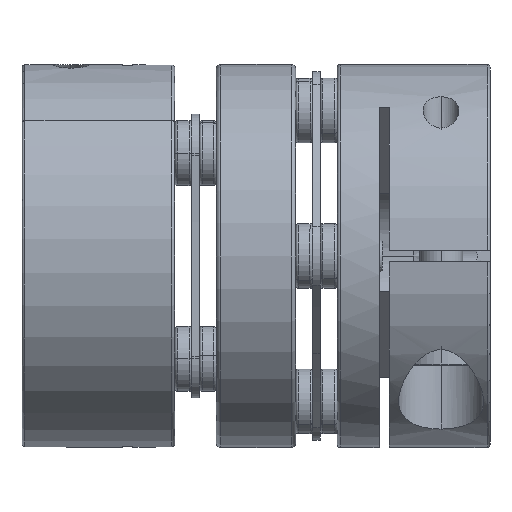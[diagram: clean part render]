
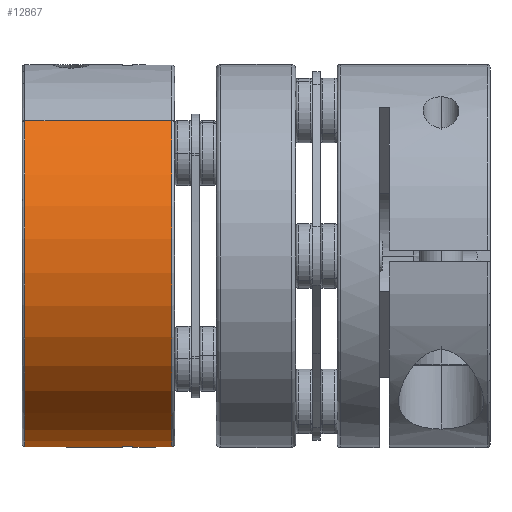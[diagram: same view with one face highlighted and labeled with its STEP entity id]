
A CAD part, left-side view. The second image highlights one B-rep face of the part: STEP entity #12867.
In plain terms, the highlighted cylindrical face has radius 13.3 mm (diameter 26.6 mm), a partial arc.
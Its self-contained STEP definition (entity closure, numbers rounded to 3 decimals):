
#1624 = LINE ( 'NONE', #4772, #1627 ) ;
#1627 = VECTOR ( 'NONE', #4752, 1000. ) ;
#1632 = LINE ( 'NONE', #6009, #1639 ) ;
#1634 = LINE ( 'NONE', #5977, #1636 ) ;
#1636 = VECTOR ( 'NONE', #5887, 1000. ) ;
#1639 = VECTOR ( 'NONE', #5976, 1000. ) ;
#1665 = CIRCLE ( 'NONE', #8670, 13.3 ) ;
#2830 = ORIENTED_EDGE ( 'NONE', *, *, #8005, .T. ) ;
#2884 = ORIENTED_EDGE ( 'NONE', *, *, #7446, .F. ) ;
#2919 = ORIENTED_EDGE ( 'NONE', *, *, #7436, .F. ) ;
#2943 = ORIENTED_EDGE ( 'NONE', *, *, #7442, .T. ) ;
#2947 = ORIENTED_EDGE ( 'NONE', *, *, #13406, .F. ) ;
#2953 = ORIENTED_EDGE ( 'NONE', *, *, #7465, .T. ) ;
#2996 = ORIENTED_EDGE ( 'NONE', *, *, #13412, .T. ) ;
#3016 = ORIENTED_EDGE ( 'NONE', *, *, #8010, .F. ) ;
#4752 = DIRECTION ( 'NONE',  ( 0., 1., 0. ) ) ;
#4772 = CARTESIAN_POINT ( 'NONE',  ( 9.405, 8.4, -9.405 ) ) ;
#5875 = CARTESIAN_POINT ( 'NONE',  ( 0., 18.8, 0. ) ) ;
#5880 = DIRECTION ( 'NONE',  ( 0., -1., 0. ) ) ;
#5881 = DIRECTION ( 'NONE',  ( -0.707, 0., 0.707 ) ) ;
#5887 = DIRECTION ( 'NONE',  ( 0., 1., 0. ) ) ;
#5976 = DIRECTION ( 'NONE',  ( 0., 1., 0. ) ) ;
#5977 = CARTESIAN_POINT ( 'NONE',  ( -9.405, 8.4, 9.405 ) ) ;
#6009 = CARTESIAN_POINT ( 'NONE',  ( 9.405, 8.4, -9.405 ) ) ;
#7436 = EDGE_CURVE ( 'NONE', #20426, #20768, #1624, .T. ) ;
#7442 = EDGE_CURVE ( 'NONE', #20299, #20546, #1634, .T. ) ;
#7446 = EDGE_CURVE ( 'NONE', #20914, #20404, #1632, .T. ) ;
#7465 = EDGE_CURVE ( 'NONE', #20546, #20404, #1665, .T. ) ;
#8005 = EDGE_CURVE ( 'NONE', #20660, #20673, #18298, .T. ) ;
#8010 = EDGE_CURVE ( 'NONE', #20660, #20914, #18315, .T. ) ;
#8670 = AXIS2_PLACEMENT_3D ( 'NONE', #5875, #5880, #5881 ) ;
#9002 = EDGE_LOOP ( 'NONE', ( #2919, #2996, #2943, #2953, #2884, #3016, #2830, #2947 ) ) ;
#10552 = AXIS2_PLACEMENT_3D ( 'NONE', #16962, #16963, #16964 ) ;
#11187 = AXIS2_PLACEMENT_3D ( 'NONE', #16112, #16110, #16108 ) ;
#11615 = AXIS2_PLACEMENT_3D ( 'NONE', #14349, #14350, #14351 ) ;
#11619 = AXIS2_PLACEMENT_3D ( 'NONE', #14364, #14365, #14366 ) ;
#11918 = CARTESIAN_POINT ( 'NONE',  ( -9.405, 8.6, 9.405 ) ) ;
#12025 = CARTESIAN_POINT ( 'NONE',  ( 9.405, 18.8, -9.405 ) ) ;
#12042 = CARTESIAN_POINT ( 'NONE',  ( 9.405, 8.6, -9.405 ) ) ;
#12091 = CARTESIAN_POINT ( 'NONE',  ( -9.405, 18.8, 9.405 ) ) ;
#12205 = CARTESIAN_POINT ( 'NONE',  ( -1.3, 12., -13.236 ) ) ;
#12218 = CARTESIAN_POINT ( 'NONE',  ( -1.3, 11.3, -13.236 ) ) ;
#12313 = CARTESIAN_POINT ( 'NONE',  ( 9.405, 11.3, -9.405 ) ) ;
#12407 = CARTESIAN_POINT ( 'NONE',  ( 9.405, 12., -9.405 ) ) ;
#12867 = ADVANCED_FACE ( 'NONE', ( #21408 ), #21414, .T. ) ;
#13406 = EDGE_CURVE ( 'NONE', #20768, #20673, #20156, .T. ) ;
#13412 = EDGE_CURVE ( 'NONE', #20426, #20299, #20196, .T. ) ;
#14349 = CARTESIAN_POINT ( 'NONE',  ( 0., 11.3, 0. ) ) ;
#14350 = DIRECTION ( 'NONE',  ( 0., 1., 0. ) ) ;
#14351 = DIRECTION ( 'NONE',  ( 0.707, 0., 0.707 ) ) ;
#14364 = CARTESIAN_POINT ( 'NONE',  ( 0., 8.6, 0. ) ) ;
#14365 = DIRECTION ( 'NONE',  ( 0., 1., 0. ) ) ;
#14366 = DIRECTION ( 'NONE',  ( -0.707, 0., 0.707 ) ) ;
#16108 = DIRECTION ( 'NONE',  ( -0.707, 0., 0.707 ) ) ;
#16110 = DIRECTION ( 'NONE',  ( 0., 1., 0. ) ) ;
#16112 = CARTESIAN_POINT ( 'NONE',  ( 0., 8.4, 0. ) ) ;
#16944 = CARTESIAN_POINT ( 'NONE',  ( -1.3, 8.4, -13.236 ) ) ;
#16951 = DIRECTION ( 'NONE',  ( 0., -1., 0. ) ) ;
#16962 = CARTESIAN_POINT ( 'NONE',  ( 0., 12., 0. ) ) ;
#16963 = DIRECTION ( 'NONE',  ( 0., -1., 0. ) ) ;
#16964 = DIRECTION ( 'NONE',  ( -0.707, 0., -0.707 ) ) ;
#18298 = LINE ( 'NONE', #16944, #18309 ) ;
#18309 = VECTOR ( 'NONE', #16951, 1000. ) ;
#18315 = CIRCLE ( 'NONE', #10552, 13.3 ) ;
#20156 = CIRCLE ( 'NONE', #11615, 13.3 ) ;
#20196 = CIRCLE ( 'NONE', #11619, 13.3 ) ;
#20299 = VERTEX_POINT ( 'NONE', #11918 ) ;
#20404 = VERTEX_POINT ( 'NONE', #12025 ) ;
#20426 = VERTEX_POINT ( 'NONE', #12042 ) ;
#20546 = VERTEX_POINT ( 'NONE', #12091 ) ;
#20660 = VERTEX_POINT ( 'NONE', #12205 ) ;
#20673 = VERTEX_POINT ( 'NONE', #12218 ) ;
#20768 = VERTEX_POINT ( 'NONE', #12313 ) ;
#20914 = VERTEX_POINT ( 'NONE', #12407 ) ;
#21408 = FACE_OUTER_BOUND ( 'NONE', #9002, .T. ) ;
#21414 = CYLINDRICAL_SURFACE ( 'NONE', #11187, 13.3 ) ;
